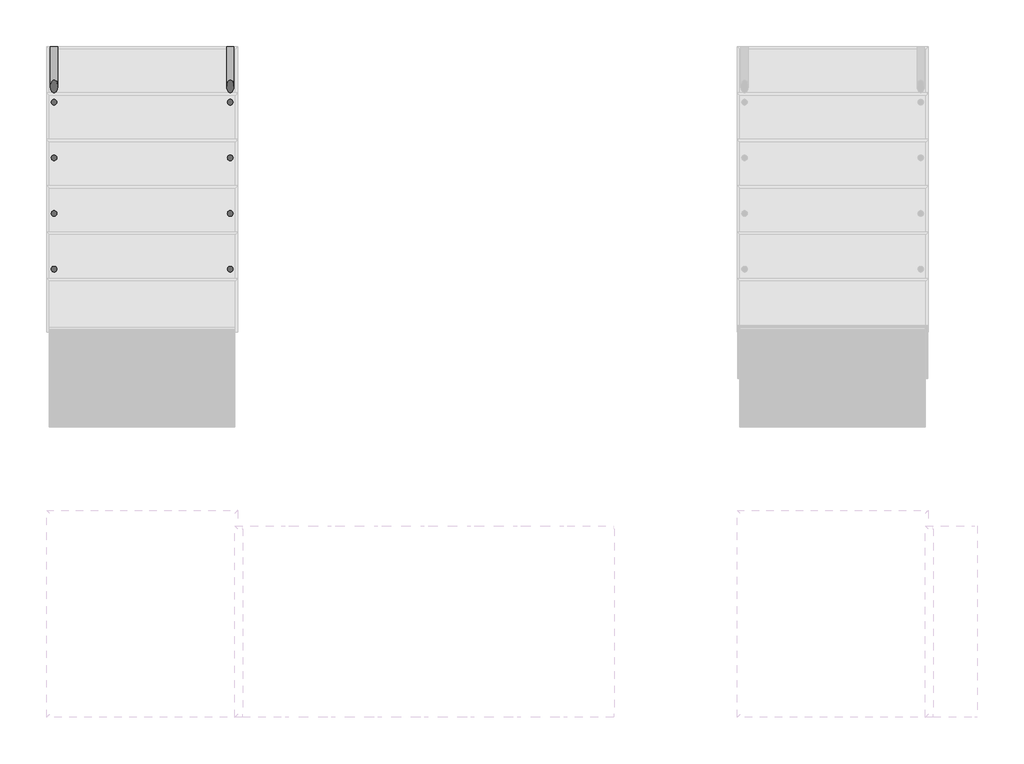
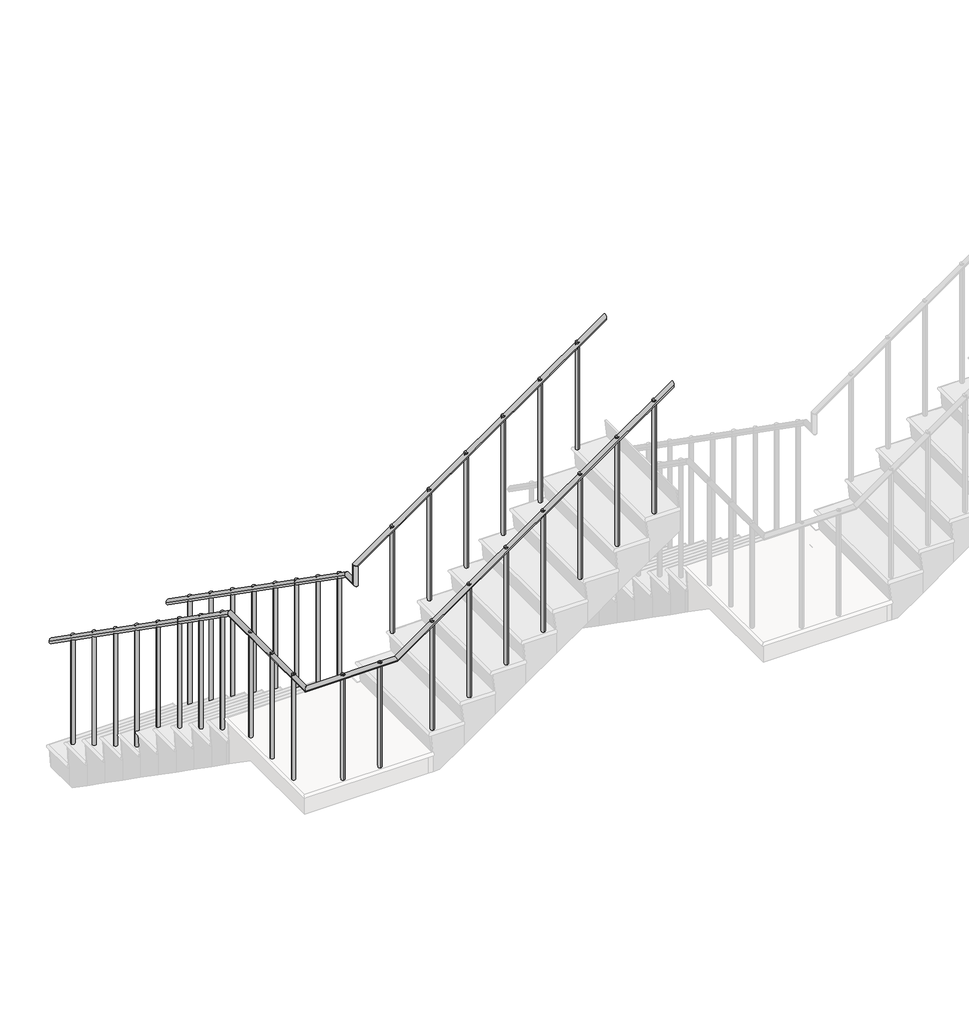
# One storey, part 4 of 6: 2 railings.
"""IFC4 building model written with IfcOpenShell, lengths in millimetres."""

from ifc_helpers import new_model, si_unit, point, frame, frame_2d, origin, place, context, project, spatial, circle_curve, ellipse_curve, trimmed, segment, composite_curve, outline, extrude, element, save
from ifc_brep_helpers import plane_surface, cylinder_surface, advanced_brep

model = new_model("IFC4")

# Units and contexts
model_context = context("Model", 3, world=origin())
ifc_project = project(units=[si_unit("LENGTHUNIT", "METRE", prefix="MILLI")], contexts=[model_context])

# Site, building, storey
site = spatial("IfcSite", under=ifc_project)
building = spatial("IfcBuilding", under=site)
storey = spatial("IfcBuildingStorey", under=building, Name="樓層 1", Elevation=0.0)

# Railings
placement = place(None, origin())
element("IfcRailing", 1, ObjectType="900mm 圓管", at=placement, inside=storey, context=model_context, shape_type="SolidModel", body=[
    advanced_brep(
    [(-6424.1669097, 3000.9077212, 1050.5868888), (-6384.1669097, 3000.9077212, 1050.5868888), (-3429.5669097, -593.6922788, 4375.5868888), (-3429.5669097, -553.6922788, 4375.5868888), (-6424.1669097, 494.6032766, 2805.0), (-6384.1669097, 494.6032766, 2805.0), (-6424.1669097, -593.6922788, 2805.0), (-6384.1669097, -553.6922788, 2805.0), (-5673.2624651, -593.6922788, 2805.0), (-5673.2624651, -553.6922788, 2805.0)],
    [
        (0, 1, ellipse_curve(frame((-6404.1669097, 3000.9077212, 1050.5868888), z_axis=(0.0, 1.0, 0.0), x_axis=(0.0, 0.0, -1.0)), 24.4131112, 20.0)),
        (1, 0, ellipse_curve(frame((-6404.1669097, 3000.9077212, 1050.5868888), z_axis=(0.0, 1.0, 0.0), x_axis=(0.0, 0.0, -1.0)), 24.4131112, 20.0)),
        (2, 3, ellipse_curve(frame((-3429.5669097, -573.6922788, 4375.5868888), z_axis=(1.0, 0.0, 0.0), x_axis=(0.0, 0.0, -1.0)), 24.4131112, 20.0)),
        (3, 2, ellipse_curve(frame((-3429.5669097, -573.6922788, 4375.5868888), z_axis=(1.0, 0.0, 0.0), x_axis=(0.0, 0.0, -1.0)), 24.4131112, 20.0)),
        (0, 4),
        (4, 5, ellipse_curve(frame((-6404.1669097, 494.6032766, 2805.0), z_axis=(0.0, 0.9537378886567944, -0.3006393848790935), x_axis=(0.0, -0.3006393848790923, -0.9537378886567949)), 20.9701221, 20.0)),
        (5, 1),
        (5, 4, ellipse_curve(frame((-6404.1669097, 494.6032766, 2805.0), z_axis=(0.0, 0.9537378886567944, -0.3006393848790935), x_axis=(0.0, -0.3006393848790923, -0.9537378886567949)), 20.9701221, 20.0)),
        (4, 6),
        (6, 7, ellipse_curve(frame((-6404.1669097, -573.6922788, 2805.0), z_axis=(-0.7071067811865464, 0.7071067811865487, 0.0), x_axis=(0.7071067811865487, 0.7071067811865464, 0.0)), 28.2842712, 20.0)),
        (7, 5),
        (7, 6, ellipse_curve(frame((-6404.1669097, -573.6922788, 2805.0), z_axis=(-0.7071067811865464, 0.7071067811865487, 0.0), x_axis=(0.7071067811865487, 0.7071067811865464, 0.0)), 28.2842712, 20.0)),
        (6, 8),
        (8, 9, ellipse_curve(frame((-5673.2624651, -573.6922788, 2805.0), z_axis=(-0.9537378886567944, 0.0, -0.30063938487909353), x_axis=(-0.3006393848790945, 0.0, 0.9537378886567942)), 20.9701221, 20.0)),
        (9, 7),
        (9, 8, ellipse_curve(frame((-5673.2624651, -573.6922788, 2805.0), z_axis=(-0.9537378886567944, 0.0, -0.30063938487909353), x_axis=(-0.3006393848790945, 0.0, 0.9537378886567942)), 20.9701221, 20.0)),
        (8, 2),
        (3, 9),
    ],
    [
        plane_surface(frame((-6404.1669097, 3000.9077212, 1075.0), z_axis=(0.0, 1.0, 0.0), x_axis=(0.0, 0.0, -1.0))),
        plane_surface(frame((-3429.5669097, -573.6922788, 4400.0), z_axis=(1.0, 0.0, 0.0), x_axis=(0.0, 1.0, 0.0))),
        cylinder_surface(frame((-6404.1669097, 2989.4384743, 1058.6153616), z_axis=(0.0, 0.8192319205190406, -0.5734623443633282), x_axis=(1.0, 0.0, 0.0)), 20.0),
        cylinder_surface(frame((-6404.1669097, 500.9077212, 2805.0), z_axis=(0.0, 1.0, 0.0), x_axis=(1.0, 0.0, 0.0)), 20.0),
        cylinder_surface(frame((-6404.1669097, -573.6922788, 2805.0), z_axis=(-1.0, 0.0, 0.0), x_axis=(0.0, 1.0, 0.0)), 20.0),
        cylinder_surface(frame((-5668.0976628, -573.6922788, 2808.6153616), z_axis=(-0.8192319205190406, 0.0, -0.5734623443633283), x_axis=(0.0, 1.0, 0.0)), 20.0),
    ],
    [
        (0, [[1, 2]]),
        (1, [[3, 4]]),
        (2, [[-1, 5, 6, 7]]),
        (2, [[-2, -7, 8, -5]]),
        (3, [[-6, 9, 10, 11]]),
        (3, [[-8, -11, 12, -9]]),
        (4, [[-10, 13, 14, 15]]),
        (4, [[-12, -15, 16, -13]]),
        (5, [[-14, 17, -4, 18]]),
        (5, [[-16, -18, -3, -17]]),
    ],
),
    extrude(outline(composite_curve([segment(trimmed(circle_curve(frame_2d((-3579.5669097, -573.6922788)), 15.0), [point((-3579.5669097, -588.6922788))], [point((-3579.5669097, -558.6922788))], False, "CARTESIAN"), True, "CONTINUOUS"), segment(trimmed(circle_curve(frame_2d((-3579.5669097, -573.6922788)), 15.0), [point((-3579.5669097, -558.6922788))], [point((-3579.5669097, -588.6922788))], False, "CARTESIAN"), True, "CONTINUOUS")], self_intersect=False)), frame((0.0, 0.0, 3325.0), z_axis=(0.0, 0.0, 1.0), x_axis=(1.0, 0.0, 0.0)), (0.0, 0.0, 1.0), 970.0),
    extrude(outline(composite_curve([segment(trimmed(circle_curve(frame_2d((-3879.5669097, -573.6922788)), 15.0), [point((-3879.5669097, -588.6922788))], [point((-3879.5669097, -558.6922788))], False, "CARTESIAN"), True, "CONTINUOUS"), segment(trimmed(circle_curve(frame_2d((-3879.5669097, -573.6922788)), 15.0), [point((-3879.5669097, -558.6922788))], [point((-3879.5669097, -588.6922788))], False, "CARTESIAN"), True, "CONTINUOUS")], self_intersect=False)), frame((0.0, 0.0, 3150.0), z_axis=(0.0, 0.0, 1.0), x_axis=(1.0, 0.0, 0.0)), (0.0, 0.0, 1.0), 935.0),
    extrude(outline(composite_curve([segment(trimmed(circle_curve(frame_2d((-4179.5669097, -573.6922788)), 15.0), [point((-4179.5669097, -588.6922788))], [point((-4179.5669097, -558.6922788))], False, "CARTESIAN"), True, "CONTINUOUS"), segment(trimmed(circle_curve(frame_2d((-4179.5669097, -573.6922788)), 15.0), [point((-4179.5669097, -558.6922788))], [point((-4179.5669097, -588.6922788))], False, "CARTESIAN"), True, "CONTINUOUS")], self_intersect=False)), frame((0.0, 0.0, 2975.0), z_axis=(0.0, 0.0, 1.0), x_axis=(1.0, 0.0, 0.0)), (0.0, 0.0, 1.0), 900.0),
    extrude(outline(composite_curve([segment(trimmed(circle_curve(frame_2d((-4479.5669097, -573.6922788)), 15.0), [point((-4479.5669097, -588.6922788))], [point((-4479.5669097, -558.6922788))], False, "CARTESIAN"), True, "CONTINUOUS"), segment(trimmed(circle_curve(frame_2d((-4479.5669097, -573.6922788)), 15.0), [point((-4479.5669097, -558.6922788))], [point((-4479.5669097, -588.6922788))], False, "CARTESIAN"), True, "CONTINUOUS")], self_intersect=False)), frame((0.0, 0.0, 2625.0), z_axis=(0.0, 0.0, 1.0), x_axis=(1.0, 0.0, 0.0)), (0.0, 0.0, 1.0), 1040.0),
    extrude(outline(composite_curve([segment(trimmed(circle_curve(frame_2d((-4779.5669097, -573.6922788)), 15.0), [point((-4779.5669097, -588.6922788))], [point((-4779.5669097, -558.6922788))], False, "CARTESIAN"), True, "CONTINUOUS"), segment(trimmed(circle_curve(frame_2d((-4779.5669097, -573.6922788)), 15.0), [point((-4779.5669097, -558.6922788))], [point((-4779.5669097, -588.6922788))], False, "CARTESIAN"), True, "CONTINUOUS")], self_intersect=False)), frame((0.0, 0.0, 2450.0), z_axis=(0.0, 0.0, 1.0), x_axis=(1.0, 0.0, 0.0)), (0.0, 0.0, 1.0), 1005.0),
    extrude(outline(composite_curve([segment(trimmed(circle_curve(frame_2d((-5079.5669097, -573.6922788)), 15.0), [point((-5079.5669097, -588.6922788))], [point((-5079.5669097, -558.6922788))], False, "CARTESIAN"), True, "CONTINUOUS"), segment(trimmed(circle_curve(frame_2d((-5079.5669097, -573.6922788)), 15.0), [point((-5079.5669097, -558.6922788))], [point((-5079.5669097, -588.6922788))], False, "CARTESIAN"), True, "CONTINUOUS")], self_intersect=False)), frame((0.0, 0.0, 2275.0), z_axis=(0.0, 0.0, 1.0), x_axis=(1.0, 0.0, 0.0)), (0.0, 0.0, 1.0), 970.0),
    extrude(outline(composite_curve([segment(trimmed(circle_curve(frame_2d((-5379.5669097, -573.6922788)), 15.0), [point((-5379.5669097, -588.6922788))], [point((-5379.5669097, -558.6922788))], False, "CARTESIAN"), True, "CONTINUOUS"), segment(trimmed(circle_curve(frame_2d((-5379.5669097, -573.6922788)), 15.0), [point((-5379.5669097, -558.6922788))], [point((-5379.5669097, -588.6922788))], False, "CARTESIAN"), True, "CONTINUOUS")], self_intersect=False)), frame((0.0, 0.0, 2100.0), z_axis=(0.0, 0.0, 1.0), x_axis=(1.0, 0.0, 0.0)), (0.0, 0.0, 1.0), 935.0),
    extrude(outline(composite_curve([segment(trimmed(circle_curve(frame_2d((-5804.1669097, -573.6922788)), 15.0), [point((-5804.1669097, -588.6922788))], [point((-5804.1669097, -558.6922788))], False, "CARTESIAN"), True, "CONTINUOUS"), segment(trimmed(circle_curve(frame_2d((-5804.1669097, -573.6922788)), 15.0), [point((-5804.1669097, -558.6922788))], [point((-5804.1669097, -588.6922788))], False, "CARTESIAN"), True, "CONTINUOUS")], self_intersect=False)), frame((0.0, 0.0, 1925.0), z_axis=(0.0, 0.0, 1.0), x_axis=(1.0, 0.0, 0.0)), (0.0, 0.0, 1.0), 900.0),
    extrude(outline(composite_curve([segment(trimmed(circle_curve(frame_2d((-6104.1669097, -573.6922788)), 15.0), [point((-6104.1669097, -588.6922788))], [point((-6104.1669097, -558.6922788))], False, "CARTESIAN"), True, "CONTINUOUS"), segment(trimmed(circle_curve(frame_2d((-6104.1669097, -573.6922788)), 15.0), [point((-6104.1669097, -558.6922788))], [point((-6104.1669097, -588.6922788))], False, "CARTESIAN"), True, "CONTINUOUS")], self_intersect=False)), frame((0.0, 0.0, 1925.0), z_axis=(0.0, 0.0, 1.0), x_axis=(1.0, 0.0, 0.0)), (0.0, 0.0, 1.0), 900.0),
    extrude(outline(composite_curve([segment(trimmed(circle_curve(frame_2d((-6404.1669097, -399.0922788)), 15.0), [point((-6419.1669097, -399.0922788))], [point((-6389.1669097, -399.0922788))], False, "CARTESIAN"), True, "CONTINUOUS"), segment(trimmed(circle_curve(frame_2d((-6404.1669097, -399.0922788)), 15.0), [point((-6389.1669097, -399.0922788))], [point((-6419.1669097, -399.0922788))], False, "CARTESIAN"), True, "CONTINUOUS")], self_intersect=False)), frame((0.0, 0.0, 1925.0), z_axis=(0.0, 0.0, 1.0), x_axis=(1.0, 0.0, 0.0)), (0.0, 0.0, 1.0), 900.0),
    extrude(outline(composite_curve([segment(trimmed(circle_curve(frame_2d((-6404.1669097, -99.0922788)), 15.0), [point((-6419.1669097, -99.0922788))], [point((-6389.1669097, -99.0922788))], False, "CARTESIAN"), True, "CONTINUOUS"), segment(trimmed(circle_curve(frame_2d((-6404.1669097, -99.0922788)), 15.0), [point((-6389.1669097, -99.0922788))], [point((-6419.1669097, -99.0922788))], False, "CARTESIAN"), True, "CONTINUOUS")], self_intersect=False)), frame((0.0, 0.0, 1925.0), z_axis=(0.0, 0.0, 1.0), x_axis=(1.0, 0.0, 0.0)), (0.0, 0.0, 1.0), 900.0),
    extrude(outline(composite_curve([segment(trimmed(circle_curve(frame_2d((-6404.1669097, 200.9077212)), 15.0), [point((-6419.1669097, 200.9077212))], [point((-6389.1669097, 200.9077212))], False, "CARTESIAN"), True, "CONTINUOUS"), segment(trimmed(circle_curve(frame_2d((-6404.1669097, 200.9077212)), 15.0), [point((-6389.1669097, 200.9077212))], [point((-6419.1669097, 200.9077212))], False, "CARTESIAN"), True, "CONTINUOUS")], self_intersect=False)), frame((0.0, 0.0, 1925.0), z_axis=(0.0, 0.0, 1.0), x_axis=(1.0, 0.0, 0.0)), (0.0, 0.0, 1.0), 900.0),
    extrude(outline(composite_curve([segment(trimmed(circle_curve(frame_2d((-6404.1669097, 600.9077212)), 15.0), [point((-6419.1669097, 600.9077212))], [point((-6389.1669097, 600.9077212))], False, "CARTESIAN"), True, "CONTINUOUS"), segment(trimmed(circle_curve(frame_2d((-6404.1669097, 600.9077212)), 15.0), [point((-6389.1669097, 600.9077212))], [point((-6419.1669097, 600.9077212))], False, "CARTESIAN"), True, "CONTINUOUS")], self_intersect=False)), frame((0.0, 0.0, 1750.0), z_axis=(0.0, 0.0, 1.0), x_axis=(1.0, 0.0, 0.0)), (0.0, 0.0, 1.0), 1005.0),
    extrude(outline(composite_curve([segment(trimmed(circle_curve(frame_2d((-6404.1669097, 900.9077212)), 15.0), [point((-6419.1669097, 900.9077212))], [point((-6389.1669097, 900.9077212))], False, "CARTESIAN"), True, "CONTINUOUS"), segment(trimmed(circle_curve(frame_2d((-6404.1669097, 900.9077212)), 15.0), [point((-6389.1669097, 900.9077212))], [point((-6419.1669097, 900.9077212))], False, "CARTESIAN"), True, "CONTINUOUS")], self_intersect=False)), frame((0.0, 0.0, 1575.0), z_axis=(0.0, 0.0, 1.0), x_axis=(1.0, 0.0, 0.0)), (0.0, 0.0, 1.0), 970.0),
    extrude(outline(composite_curve([segment(trimmed(circle_curve(frame_2d((-6404.1669097, 1200.9077212)), 15.0), [point((-6419.1669097, 1200.9077212))], [point((-6389.1669097, 1200.9077212))], False, "CARTESIAN"), True, "CONTINUOUS"), segment(trimmed(circle_curve(frame_2d((-6404.1669097, 1200.9077212)), 15.0), [point((-6389.1669097, 1200.9077212))], [point((-6419.1669097, 1200.9077212))], False, "CARTESIAN"), True, "CONTINUOUS")], self_intersect=False)), frame((0.0, 0.0, 1400.0), z_axis=(0.0, 0.0, 1.0), x_axis=(1.0, 0.0, 0.0)), (0.0, 0.0, 1.0), 935.0),
    extrude(outline(composite_curve([segment(trimmed(circle_curve(frame_2d((-6404.1669097, 1500.9077212)), 15.0), [point((-6419.1669097, 1500.9077212))], [point((-6389.1669097, 1500.9077212))], False, "CARTESIAN"), True, "CONTINUOUS"), segment(trimmed(circle_curve(frame_2d((-6404.1669097, 1500.9077212)), 15.0), [point((-6389.1669097, 1500.9077212))], [point((-6419.1669097, 1500.9077212))], False, "CARTESIAN"), True, "CONTINUOUS")], self_intersect=False)), frame((0.0, 0.0, 1225.0), z_axis=(0.0, 0.0, 1.0), x_axis=(1.0, 0.0, 0.0)), (0.0, 0.0, 1.0), 900.0),
    extrude(outline(composite_curve([segment(trimmed(circle_curve(frame_2d((-6404.1669097, 1800.9077212)), 15.0), [point((-6419.1669097, 1800.9077212))], [point((-6389.1669097, 1800.9077212))], False, "CARTESIAN"), True, "CONTINUOUS"), segment(trimmed(circle_curve(frame_2d((-6404.1669097, 1800.9077212)), 15.0), [point((-6389.1669097, 1800.9077212))], [point((-6419.1669097, 1800.9077212))], False, "CARTESIAN"), True, "CONTINUOUS")], self_intersect=False)), frame((0.0, 0.0, 875.0), z_axis=(0.0, 0.0, 1.0), x_axis=(1.0, 0.0, 0.0)), (0.0, 0.0, 1.0), 1040.0),
    extrude(outline(composite_curve([segment(trimmed(circle_curve(frame_2d((-6404.1669097, 2100.9077212)), 15.0), [point((-6419.1669097, 2100.9077212))], [point((-6389.1669097, 2100.9077212))], False, "CARTESIAN"), True, "CONTINUOUS"), segment(trimmed(circle_curve(frame_2d((-6404.1669097, 2100.9077212)), 15.0), [point((-6389.1669097, 2100.9077212))], [point((-6419.1669097, 2100.9077212))], False, "CARTESIAN"), True, "CONTINUOUS")], self_intersect=False)), frame((0.0, 0.0, 700.0), z_axis=(0.0, 0.0, 1.0), x_axis=(1.0, 0.0, 0.0)), (0.0, 0.0, 1.0), 1005.0),
    extrude(outline(composite_curve([segment(trimmed(circle_curve(frame_2d((-6404.1669097, 2400.9077212)), 15.0), [point((-6419.1669097, 2400.9077212))], [point((-6389.1669097, 2400.9077212))], False, "CARTESIAN"), True, "CONTINUOUS"), segment(trimmed(circle_curve(frame_2d((-6404.1669097, 2400.9077212)), 15.0), [point((-6389.1669097, 2400.9077212))], [point((-6419.1669097, 2400.9077212))], False, "CARTESIAN"), True, "CONTINUOUS")], self_intersect=False)), frame((0.0, 0.0, 525.0), z_axis=(0.0, 0.0, 1.0), x_axis=(1.0, 0.0, 0.0)), (0.0, 0.0, 1.0), 970.0),
    extrude(outline(composite_curve([segment(trimmed(circle_curve(frame_2d((-6404.1669097, 2700.9077212)), 15.0), [point((-6419.1669097, 2700.9077212))], [point((-6389.1669097, 2700.9077212))], False, "CARTESIAN"), True, "CONTINUOUS"), segment(trimmed(circle_curve(frame_2d((-6404.1669097, 2700.9077212)), 15.0), [point((-6389.1669097, 2700.9077212))], [point((-6419.1669097, 2700.9077212))], False, "CARTESIAN"), True, "CONTINUOUS")], self_intersect=False)), frame((0.0, 0.0, 350.0), z_axis=(0.0, 0.0, 1.0), x_axis=(1.0, 0.0, 0.0)), (0.0, 0.0, 1.0), 935.0),
])
element("IfcRailing", 2, ObjectType="900mm 圓管", at=placement, inside=storey, context=model_context, shape_type="SolidModel", body=[
    advanced_brep(
    [(-5474.9669097, 3000.9077212, 1050.5868888), (-5434.9669097, 3000.9077212, 1050.5868888), (-5474.9669097, 375.5077212, 2805.0), (-5434.9669097, 375.5077212, 2805.0), (-5474.9669097, 494.6032766, 2805.0), (-5434.9669097, 494.6032766, 2805.0)],
    [
        (0, 1, ellipse_curve(frame((-5454.9669097, 3000.9077212, 1050.5868888), z_axis=(0.0, 1.0, 0.0), x_axis=(0.0, 0.0, -1.0)), 24.4131112, 20.0)),
        (1, 0, ellipse_curve(frame((-5454.9669097, 3000.9077212, 1050.5868888), z_axis=(0.0, 1.0, 0.0), x_axis=(0.0, 0.0, -1.0)), 24.4131112, 20.0)),
        (2, 3, ellipse_curve(frame((-5454.9669097, 375.5077212, 2805.0), z_axis=(0.0, -0.7071067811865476, 0.7071067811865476), x_axis=(0.0, 0.7071067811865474, 0.7071067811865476)), 28.2842712, 20.0)),
        (3, 2, ellipse_curve(frame((-5454.9669097, 375.5077212, 2805.0), z_axis=(0.0, -0.7071067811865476, 0.7071067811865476), x_axis=(0.0, 0.7071067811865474, 0.7071067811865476)), 28.2842712, 20.0)),
        (0, 4),
        (4, 5, ellipse_curve(frame((-5454.9669097, 494.6032766, 2805.0), z_axis=(0.0, 0.9537378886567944, -0.3006393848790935), x_axis=(0.0, -0.3006393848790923, -0.9537378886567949)), 20.9701221, 20.0)),
        (5, 1),
        (5, 4, ellipse_curve(frame((-5454.9669097, 494.6032766, 2805.0), z_axis=(0.0, 0.9537378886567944, -0.3006393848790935), x_axis=(0.0, -0.3006393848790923, -0.9537378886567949)), 20.9701221, 20.0)),
        (4, 2),
        (3, 5),
    ],
    [
        plane_surface(frame((-5454.9669097, 3000.9077212, 1075.0), z_axis=(0.0, 1.0, 0.0), x_axis=(0.0, 0.0, -1.0))),
        plane_surface(frame((-5454.9669097, 395.5077212, 2825.0), z_axis=(0.0, -0.7071067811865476, 0.7071067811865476), x_axis=(1.0, 0.0, 0.0))),
        cylinder_surface(frame((-5454.9669097, 2989.4384743, 1058.6153616), z_axis=(0.0, 0.8192319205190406, -0.5734623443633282), x_axis=(1.0, 0.0, 0.0)), 20.0),
        cylinder_surface(frame((-5454.9669097, 500.9077212, 2805.0), z_axis=(0.0, 1.0, 0.0), x_axis=(1.0, 0.0, 0.0)), 20.0),
    ],
    [
        (0, [[1, 2]]),
        (1, [[3, 4]]),
        (2, [[-1, 5, 6, 7]]),
        (2, [[-2, -7, 8, -5]]),
        (3, [[-6, 9, -4, 10]]),
        (3, [[-8, -10, -3, -9]]),
    ],
),
    advanced_brep(
    [(-5474.9669097, 375.5077212, 2805.0), (-5434.9669097, 375.5077212, 2805.0), (-5474.9669097, 375.5077212, 2968.22), (-5434.9669097, 375.5077212, 2947.3937775)],
    [
        (0, 1, ellipse_curve(frame((-5454.9669097, 375.5077212, 2805.0), z_axis=(0.0, 0.7071067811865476, -0.7071067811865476), x_axis=(0.0, -0.7071067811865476, -0.7071067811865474)), 28.2842712, 20.0)),
        (1, 0, ellipse_curve(frame((-5454.9669097, 375.5077212, 2805.0), z_axis=(0.0, 0.7071067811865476, -0.7071067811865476), x_axis=(0.0, -0.7071067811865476, -0.7071067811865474)), 28.2842712, 20.0)),
        (2, 3, ellipse_curve(frame((-5454.9669097, 375.5077212, 2957.8068888), z_axis=(0.46181038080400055, 0.0, 0.8869786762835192), x_axis=(0.8869786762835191, 0.0, -0.4618103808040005)), 22.5484564, 20.0)),
        (3, 2, ellipse_curve(frame((-5454.9669097, 375.5077212, 2957.8068888), z_axis=(0.46181038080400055, 0.0, 0.8869786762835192), x_axis=(0.8869786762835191, 0.0, -0.4618103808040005)), 22.5484564, 20.0)),
        (0, 2),
        (3, 1),
    ],
    [
        plane_surface(frame((-5454.9669097, 375.5077212, 2805.0), z_axis=(0.0, 0.7071067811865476, -0.7071067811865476), x_axis=(1.0, 0.0, 0.0))),
        plane_surface(frame((-5454.9669097, 375.5077212, 2957.8068888), z_axis=(0.46181038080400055, 0.0, 0.8869786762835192), x_axis=(0.8869786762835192, 0.0, -0.46181038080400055))),
        cylinder_surface(frame((-5454.9669097, 375.5077212, 2805.0), z_axis=(0.0, 0.0, -1.0), x_axis=(1.0, 0.0, 0.0)), 20.0),
    ],
    [
        (0, [[1, 2]]),
        (1, [[3, 4]]),
        (2, [[-1, 5, -4, 6]]),
        (2, [[-2, -6, -3, -5]]),
    ],
),
    advanced_brep(
    [(-5454.9669097, 355.5077212, 2957.8068888), (-5454.9669097, 395.5077212, 2957.8068888), (-3429.5669097, 355.5077212, 4375.5868888), (-3429.5669097, 395.5077212, 4375.5868888)],
    [
        (0, 1, ellipse_curve(frame((-5454.9669097, 375.5077212, 2957.8068888), z_axis=(-0.46181038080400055, 0.0, -0.8869786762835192), x_axis=(-0.8869786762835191, 0.0, 0.4618103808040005)), 22.5484564, 20.0)),
        (1, 0, ellipse_curve(frame((-5454.9669097, 375.5077212, 2957.8068888), z_axis=(-0.46181038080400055, 0.0, -0.8869786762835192), x_axis=(-0.8869786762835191, 0.0, 0.4618103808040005)), 22.5484564, 20.0)),
        (2, 3, ellipse_curve(frame((-3429.5669097, 375.5077212, 4375.5868888), z_axis=(1.0, 0.0, 0.0), x_axis=(0.0, 0.0, -1.0)), 24.4131112, 20.0)),
        (3, 2, ellipse_curve(frame((-3429.5669097, 375.5077212, 4375.5868888), z_axis=(1.0, 0.0, 0.0), x_axis=(0.0, 0.0, -1.0)), 24.4131112, 20.0)),
        (0, 2),
        (3, 1),
    ],
    [
        plane_surface(frame((-5474.9669097, 375.5077212, 2968.22), z_axis=(-0.46181038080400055, 0.0, -0.8869786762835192), x_axis=(0.8869786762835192, 0.0, -0.46181038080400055))),
        plane_surface(frame((-3429.5669097, 375.5077212, 4400.0), z_axis=(1.0, 0.0, 0.0), x_axis=(0.0, 1.0, 0.0))),
        cylinder_surface(frame((-5463.4976628, 375.5077212, 2951.8353616), z_axis=(-0.8192319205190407, 0.0, -0.573462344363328), x_axis=(0.0, 1.0, 0.0)), 20.0),
    ],
    [
        (0, [[1, 2]]),
        (1, [[3, 4]]),
        (2, [[-1, 5, -4, 6]]),
        (2, [[-2, -6, -3, -5]]),
    ],
),
    extrude(outline(composite_curve([segment(trimmed(circle_curve(frame_2d((-3654.9669097, 375.5077212)), 15.0), [point((-3654.9669097, 390.5077212))], [point((-3654.9669097, 360.5077212))], False, "CARTESIAN"), True, "CONTINUOUS"), segment(trimmed(circle_curve(frame_2d((-3654.9669097, 375.5077212)), 15.0), [point((-3654.9669097, 360.5077212))], [point((-3654.9669097, 390.5077212))], False, "CARTESIAN"), True, "CONTINUOUS")], self_intersect=False)), frame((0.0, 0.0, 3325.0), z_axis=(0.0, 0.0, 1.0), x_axis=(1.0, 0.0, 0.0)), (0.0, 0.0, 1.0), 917.22),
    extrude(outline(composite_curve([segment(trimmed(circle_curve(frame_2d((-3954.9669097, 375.5077212)), 15.0), [point((-3954.9669097, 390.5077212))], [point((-3954.9669097, 360.5077212))], False, "CARTESIAN"), True, "CONTINUOUS"), segment(trimmed(circle_curve(frame_2d((-3954.9669097, 375.5077212)), 15.0), [point((-3954.9669097, 360.5077212))], [point((-3954.9669097, 390.5077212))], False, "CARTESIAN"), True, "CONTINUOUS")], self_intersect=False)), frame((0.0, 0.0, 2975.0), z_axis=(0.0, 0.0, 1.0), x_axis=(1.0, 0.0, 0.0)), (0.0, 0.0, 1.0), 1057.22),
    extrude(outline(composite_curve([segment(trimmed(circle_curve(frame_2d((-4254.9669097, 375.5077212)), 15.0), [point((-4254.9669097, 390.5077212))], [point((-4254.9669097, 360.5077212))], False, "CARTESIAN"), True, "CONTINUOUS"), segment(trimmed(circle_curve(frame_2d((-4254.9669097, 375.5077212)), 15.0), [point((-4254.9669097, 360.5077212))], [point((-4254.9669097, 390.5077212))], False, "CARTESIAN"), True, "CONTINUOUS")], self_intersect=False)), frame((0.0, 0.0, 2800.0), z_axis=(0.0, 0.0, 1.0), x_axis=(1.0, 0.0, 0.0)), (0.0, 0.0, 1.0), 1022.22),
    extrude(outline(composite_curve([segment(trimmed(circle_curve(frame_2d((-4554.9669097, 375.5077212)), 15.0), [point((-4554.9669097, 390.5077212))], [point((-4554.9669097, 360.5077212))], False, "CARTESIAN"), True, "CONTINUOUS"), segment(trimmed(circle_curve(frame_2d((-4554.9669097, 375.5077212)), 15.0), [point((-4554.9669097, 360.5077212))], [point((-4554.9669097, 390.5077212))], False, "CARTESIAN"), True, "CONTINUOUS")], self_intersect=False)), frame((0.0, 0.0, 2625.0), z_axis=(0.0, 0.0, 1.0), x_axis=(1.0, 0.0, 0.0)), (0.0, 0.0, 1.0), 987.22),
    extrude(outline(composite_curve([segment(trimmed(circle_curve(frame_2d((-4854.9669097, 375.5077212)), 15.0), [point((-4854.9669097, 390.5077212))], [point((-4854.9669097, 360.5077212))], False, "CARTESIAN"), True, "CONTINUOUS"), segment(trimmed(circle_curve(frame_2d((-4854.9669097, 375.5077212)), 15.0), [point((-4854.9669097, 360.5077212))], [point((-4854.9669097, 390.5077212))], False, "CARTESIAN"), True, "CONTINUOUS")], self_intersect=False)), frame((0.0, 0.0, 2450.0), z_axis=(0.0, 0.0, 1.0), x_axis=(1.0, 0.0, 0.0)), (0.0, 0.0, 1.0), 952.22),
    extrude(outline(composite_curve([segment(trimmed(circle_curve(frame_2d((-5154.9669097, 375.5077212)), 15.0), [point((-5154.9669097, 390.5077212))], [point((-5154.9669097, 360.5077212))], False, "CARTESIAN"), True, "CONTINUOUS"), segment(trimmed(circle_curve(frame_2d((-5154.9669097, 375.5077212)), 15.0), [point((-5154.9669097, 360.5077212))], [point((-5154.9669097, 390.5077212))], False, "CARTESIAN"), True, "CONTINUOUS")], self_intersect=False)), frame((0.0, 0.0, 2275.0), z_axis=(0.0, 0.0, 1.0), x_axis=(1.0, 0.0, 0.0)), (0.0, 0.0, 1.0), 917.22),
    extrude(outline(composite_curve([segment(trimmed(circle_curve(frame_2d((-5454.9669097, 600.9077212)), 15.0), [point((-5439.9669097, 600.9077212))], [point((-5469.9669097, 600.9077212))], False, "CARTESIAN"), True, "CONTINUOUS"), segment(trimmed(circle_curve(frame_2d((-5454.9669097, 600.9077212)), 15.0), [point((-5469.9669097, 600.9077212))], [point((-5439.9669097, 600.9077212))], False, "CARTESIAN"), True, "CONTINUOUS")], self_intersect=False)), frame((0.0, 0.0, 1750.0), z_axis=(0.0, 0.0, 1.0), x_axis=(1.0, 0.0, 0.0)), (0.0, 0.0, 1.0), 1005.0),
    extrude(outline(composite_curve([segment(trimmed(circle_curve(frame_2d((-5454.9669097, 900.9077212)), 15.0), [point((-5439.9669097, 900.9077212))], [point((-5469.9669097, 900.9077212))], False, "CARTESIAN"), True, "CONTINUOUS"), segment(trimmed(circle_curve(frame_2d((-5454.9669097, 900.9077212)), 15.0), [point((-5469.9669097, 900.9077212))], [point((-5439.9669097, 900.9077212))], False, "CARTESIAN"), True, "CONTINUOUS")], self_intersect=False)), frame((0.0, 0.0, 1575.0), z_axis=(0.0, 0.0, 1.0), x_axis=(1.0, 0.0, 0.0)), (0.0, 0.0, 1.0), 970.0),
    extrude(outline(composite_curve([segment(trimmed(circle_curve(frame_2d((-5454.9669097, 1200.9077212)), 15.0), [point((-5439.9669097, 1200.9077212))], [point((-5469.9669097, 1200.9077212))], False, "CARTESIAN"), True, "CONTINUOUS"), segment(trimmed(circle_curve(frame_2d((-5454.9669097, 1200.9077212)), 15.0), [point((-5469.9669097, 1200.9077212))], [point((-5439.9669097, 1200.9077212))], False, "CARTESIAN"), True, "CONTINUOUS")], self_intersect=False)), frame((0.0, 0.0, 1400.0), z_axis=(0.0, 0.0, 1.0), x_axis=(1.0, 0.0, 0.0)), (0.0, 0.0, 1.0), 935.0),
    extrude(outline(composite_curve([segment(trimmed(circle_curve(frame_2d((-5454.9669097, 1500.9077212)), 15.0), [point((-5439.9669097, 1500.9077212))], [point((-5469.9669097, 1500.9077212))], False, "CARTESIAN"), True, "CONTINUOUS"), segment(trimmed(circle_curve(frame_2d((-5454.9669097, 1500.9077212)), 15.0), [point((-5469.9669097, 1500.9077212))], [point((-5439.9669097, 1500.9077212))], False, "CARTESIAN"), True, "CONTINUOUS")], self_intersect=False)), frame((0.0, 0.0, 1225.0), z_axis=(0.0, 0.0, 1.0), x_axis=(1.0, 0.0, 0.0)), (0.0, 0.0, 1.0), 900.0),
    extrude(outline(composite_curve([segment(trimmed(circle_curve(frame_2d((-5454.9669097, 1800.9077212)), 15.0), [point((-5439.9669097, 1800.9077212))], [point((-5469.9669097, 1800.9077212))], False, "CARTESIAN"), True, "CONTINUOUS"), segment(trimmed(circle_curve(frame_2d((-5454.9669097, 1800.9077212)), 15.0), [point((-5469.9669097, 1800.9077212))], [point((-5439.9669097, 1800.9077212))], False, "CARTESIAN"), True, "CONTINUOUS")], self_intersect=False)), frame((0.0, 0.0, 875.0), z_axis=(0.0, 0.0, 1.0), x_axis=(1.0, 0.0, 0.0)), (0.0, 0.0, 1.0), 1040.0),
    extrude(outline(composite_curve([segment(trimmed(circle_curve(frame_2d((-5454.9669097, 2100.9077212)), 15.0), [point((-5439.9669097, 2100.9077212))], [point((-5469.9669097, 2100.9077212))], False, "CARTESIAN"), True, "CONTINUOUS"), segment(trimmed(circle_curve(frame_2d((-5454.9669097, 2100.9077212)), 15.0), [point((-5469.9669097, 2100.9077212))], [point((-5439.9669097, 2100.9077212))], False, "CARTESIAN"), True, "CONTINUOUS")], self_intersect=False)), frame((0.0, 0.0, 700.0), z_axis=(0.0, 0.0, 1.0), x_axis=(1.0, 0.0, 0.0)), (0.0, 0.0, 1.0), 1005.0),
    extrude(outline(composite_curve([segment(trimmed(circle_curve(frame_2d((-5454.9669097, 2400.9077212)), 15.0), [point((-5439.9669097, 2400.9077212))], [point((-5469.9669097, 2400.9077212))], False, "CARTESIAN"), True, "CONTINUOUS"), segment(trimmed(circle_curve(frame_2d((-5454.9669097, 2400.9077212)), 15.0), [point((-5469.9669097, 2400.9077212))], [point((-5439.9669097, 2400.9077212))], False, "CARTESIAN"), True, "CONTINUOUS")], self_intersect=False)), frame((0.0, 0.0, 525.0), z_axis=(0.0, 0.0, 1.0), x_axis=(1.0, 0.0, 0.0)), (0.0, 0.0, 1.0), 970.0),
    extrude(outline(composite_curve([segment(trimmed(circle_curve(frame_2d((-5454.9669097, 2700.9077212)), 15.0), [point((-5439.9669097, 2700.9077212))], [point((-5469.9669097, 2700.9077212))], False, "CARTESIAN"), True, "CONTINUOUS"), segment(trimmed(circle_curve(frame_2d((-5454.9669097, 2700.9077212)), 15.0), [point((-5469.9669097, 2700.9077212))], [point((-5439.9669097, 2700.9077212))], False, "CARTESIAN"), True, "CONTINUOUS")], self_intersect=False)), frame((0.0, 0.0, 350.0), z_axis=(0.0, 0.0, 1.0), x_axis=(1.0, 0.0, 0.0)), (0.0, 0.0, 1.0), 935.0),
])

save(model, "model.ifc")
